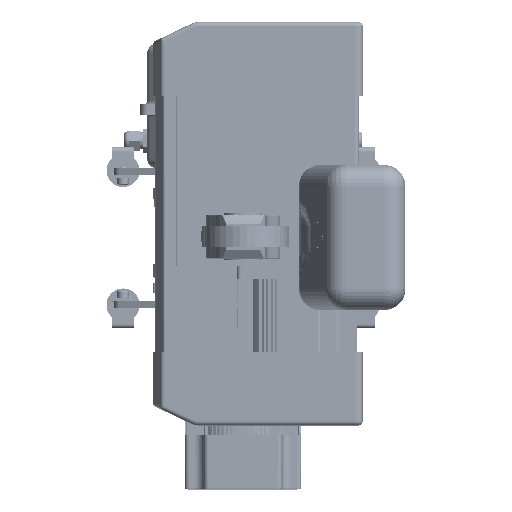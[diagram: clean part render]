
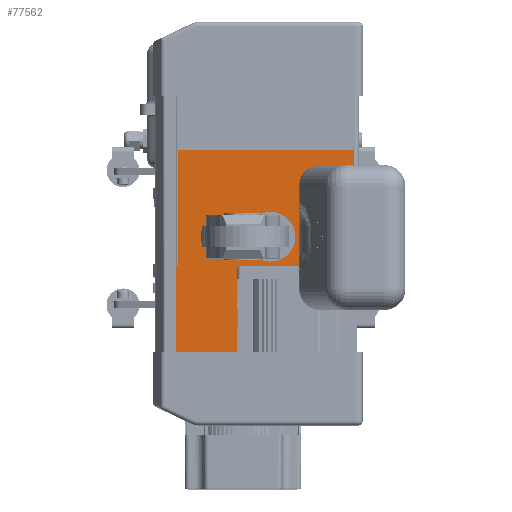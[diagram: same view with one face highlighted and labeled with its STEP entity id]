
A CAD part, front view. The second image highlights one B-rep face of the part: STEP entity #77562.
In plain terms, the highlighted planar face has unit normal (0, -1, 0).
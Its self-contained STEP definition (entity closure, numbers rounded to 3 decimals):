
#2143=LINE('',#116982,#8166);
#2194=LINE('',#117127,#8217);
#2195=LINE('',#117130,#8218);
#2196=LINE('',#117131,#8219);
#2197=LINE('',#117133,#8220);
#2198=LINE('',#117144,#8221);
#2199=LINE('',#117146,#8222);
#8166=VECTOR('',#92473,1000.);
#8217=VECTOR('',#92570,1000.);
#8218=VECTOR('',#92571,1000.);
#8219=VECTOR('',#92572,1000.);
#8220=VECTOR('',#92573,1000.);
#8221=VECTOR('',#92574,1000.);
#8222=VECTOR('',#92575,1000.);
#14168=B_SPLINE_CURVE_WITH_KNOTS('',3,(#117122,#117123,#117124,#117125),
 .UNSPECIFIED.,.F.,.F.,(4,4),(0.644,0.668),
 .UNSPECIFIED.);
#14169=B_SPLINE_CURVE_WITH_KNOTS('',3,(#117134,#117135,#117136,#117137),
 .UNSPECIFIED.,.F.,.F.,(4,4),(0.356,1.),.UNSPECIFIED.);
#14170=B_SPLINE_CURVE_WITH_KNOTS('',3,(#117139,#117140,#117141,#117142),
 .UNSPECIFIED.,.F.,.F.,(4,4),(0.,0.986),.UNSPECIFIED.);
#16491=PLANE('',#83743);
#20763=ORIENTED_EDGE('',*,*,#43066,.T.);
#20764=ORIENTED_EDGE('',*,*,#43067,.F.);
#20765=ORIENTED_EDGE('',*,*,#42997,.T.);
#20766=ORIENTED_EDGE('',*,*,#43068,.T.);
#20767=ORIENTED_EDGE('',*,*,#43069,.T.);
#20768=ORIENTED_EDGE('',*,*,#43065,.T.);
#20769=ORIENTED_EDGE('',*,*,#43070,.T.);
#20770=ORIENTED_EDGE('',*,*,#43071,.T.);
#20771=ORIENTED_EDGE('',*,*,#43072,.T.);
#20772=ORIENTED_EDGE('',*,*,#43073,.F.);
#42997=EDGE_CURVE('',#54261,#54260,#2143,.T.);
#43065=EDGE_CURVE('',#54317,#54318,#14168,.F.);
#43066=EDGE_CURVE('',#54319,#54320,#2194,.T.);
#43067=EDGE_CURVE('',#54261,#54320,#2195,.T.);
#43068=EDGE_CURVE('',#54260,#54321,#2196,.T.);
#43069=EDGE_CURVE('',#54321,#54317,#2197,.T.);
#43070=EDGE_CURVE('',#54318,#54322,#14169,.T.);
#43071=EDGE_CURVE('',#54322,#54323,#14170,.T.);
#43072=EDGE_CURVE('',#54323,#54324,#2198,.T.);
#43073=EDGE_CURVE('',#54319,#54324,#2199,.F.);
#54260=VERTEX_POINT('',#116981);
#54261=VERTEX_POINT('',#116983);
#54317=VERTEX_POINT('',#117115);
#54318=VERTEX_POINT('',#117121);
#54319=VERTEX_POINT('',#117128);
#54320=VERTEX_POINT('',#117129);
#54321=VERTEX_POINT('',#117132);
#54322=VERTEX_POINT('',#117138);
#54323=VERTEX_POINT('',#117143);
#54324=VERTEX_POINT('',#117145);
#64783=EDGE_LOOP('',(#20763,#20764,#20765,#20766,#20767,#20768,#20769,#20770,
#20771,#20772));
#70533=FACE_BOUND('',#64783,.T.);
#77562=ADVANCED_FACE('',(#70533),#16491,.T.);
#83743=AXIS2_PLACEMENT_3D('',#117126,#92568,#92569);
#92473=DIRECTION('',(0.,0.,-1.));
#92568=DIRECTION('',(0.,-1.,0.));
#92569=DIRECTION('',(1.,0.,0.));
#92570=DIRECTION('',(0.,0.,-1.));
#92571=DIRECTION('',(1.,0.,0.));
#92572=DIRECTION('',(1.,0.,0.));
#92573=DIRECTION('',(0.,0.,1.));
#92574=DIRECTION('',(0.,0.,1.));
#92575=DIRECTION('',(-1.,0.,0.));
#116981=CARTESIAN_POINT('',(-139.392,-738.742,147.427));
#116982=CARTESIAN_POINT('',(-139.392,-738.742,359.427));
#116983=CARTESIAN_POINT('',(-139.392,-738.742,245.927));
#117115=CARTESIAN_POINT('',(-70.,-738.742,245.927));
#117121=CARTESIAN_POINT('',(-65.001,-738.742,245.927));
#117122=CARTESIAN_POINT('',(-65.001,-738.742,245.927));
#117123=CARTESIAN_POINT('',(-66.667,-738.742,245.927));
#117124=CARTESIAN_POINT('',(-68.334,-738.742,245.927));
#117125=CARTESIAN_POINT('',(-70.,-738.742,245.927));
#117126=CARTESIAN_POINT('',(63.,-738.742,227.427));
#117127=CARTESIAN_POINT('',(-137.,-738.742,801.877));
#117128=CARTESIAN_POINT('',(-137.,-738.742,378.927));
#117129=CARTESIAN_POINT('',(-137.,-738.742,245.927));
#117130=CARTESIAN_POINT('',(63.,-738.742,245.927));
#117131=CARTESIAN_POINT('',(63.,-738.742,147.427));
#117132=CARTESIAN_POINT('',(-70.,-738.742,147.427));
#117133=CARTESIAN_POINT('',(-70.,-738.742,227.427));
#117134=CARTESIAN_POINT('',(-65.001,-738.742,245.927));
#117135=CARTESIAN_POINT('',(-21.667,-738.742,245.927));
#117136=CARTESIAN_POINT('',(21.666,-738.742,245.927));
#117137=CARTESIAN_POINT('',(65.,-738.742,245.927));
#117138=CARTESIAN_POINT('',(65.,-738.742,245.927));
#117139=CARTESIAN_POINT('',(65.,-738.742,245.927));
#117140=CARTESIAN_POINT('',(65.,-738.742,280.927));
#117141=CARTESIAN_POINT('',(65.,-738.742,315.927));
#117142=CARTESIAN_POINT('',(65.,-738.742,350.927));
#117143=CARTESIAN_POINT('',(65.,-738.742,350.927));
#117144=CARTESIAN_POINT('',(65.,-738.742,227.427));
#117145=CARTESIAN_POINT('',(65.,-738.742,378.927));
#117146=CARTESIAN_POINT('',(-137.,-738.742,378.927));
